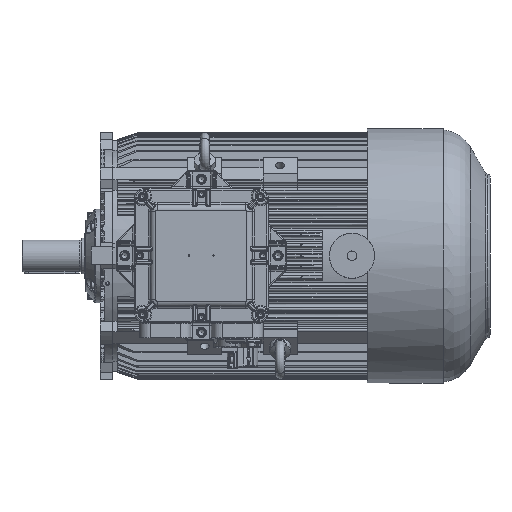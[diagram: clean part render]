
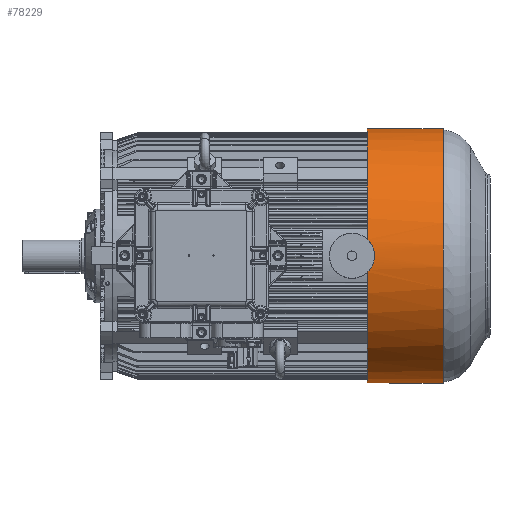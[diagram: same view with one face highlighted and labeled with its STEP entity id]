
A CAD part, top view. The second image highlights one B-rep face of the part: STEP entity #78229.
In plain terms, the highlighted cylindrical face has radius 299.5 mm (diameter 599 mm), a partial arc.
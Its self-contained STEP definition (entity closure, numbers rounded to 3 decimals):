
#1646=CYLINDRICAL_SURFACE('',#84217,299.5);
#5690=LINE('',#130180,#9474);
#5691=LINE('',#130181,#9475);
#9474=VECTOR('',#99751,1000.);
#9475=VECTOR('',#99752,1000.);
#10832=CIRCLE('',#78585,299.5);
#13457=CIRCLE('',#84208,299.5);
#13462=CIRCLE('',#84216,299.5);
#29023=ORIENTED_EDGE('',*,*,#37608,.T.);
#29024=ORIENTED_EDGE('',*,*,#37621,.T.);
#29025=ORIENTED_EDGE('',*,*,#29969,.F.);
#29026=ORIENTED_EDGE('',*,*,#30977,.T.);
#29027=ORIENTED_EDGE('',*,*,#37620,.F.);
#29028=ORIENTED_EDGE('',*,*,#37622,.T.);
#29969=EDGE_CURVE('',#38079,#38080,#10832,.T.);
#30977=EDGE_CURVE('',#38079,#38907,#43449,.T.);
#37608=EDGE_CURVE('',#42988,#42987,#13457,.T.);
#37620=EDGE_CURVE('',#42996,#38907,#13462,.T.);
#37621=EDGE_CURVE('',#42987,#38080,#5690,.T.);
#37622=EDGE_CURVE('',#42996,#42988,#5691,.F.);
#38079=VERTEX_POINT('',#101042);
#38080=VERTEX_POINT('',#101043);
#38907=VERTEX_POINT('',#103996);
#42987=VERTEX_POINT('',#130112);
#42988=VERTEX_POINT('',#130114);
#42996=VERTEX_POINT('',#130177);
#43449=B_SPLINE_CURVE_WITH_KNOTS('',3,(#103997,#103998,#103999,#104000,
#104001,#104002,#104003,#104004,#104005,#104006,#104007,#104008,#104009,
#104010,#104011,#104012),.UNSPECIFIED.,.F.,.F.,(4,1,1,1,1,1,1,1,1,1,1,1,
1,4),(0.,0.011,0.016,0.021,0.032,
0.037,0.043,0.048,0.054,
0.059,0.064,0.07,0.075,
0.086),.UNSPECIFIED.);
#47706=EDGE_LOOP('',(#29023,#29024,#29025,#29026,#29027,#29028));
#51430=FACE_BOUND('',#47706,.T.);
#78229=ADVANCED_FACE('',(#51430),#1646,.T.);
#78585=AXIS2_PLACEMENT_3D('',#101041,#84810,#84811);
#84208=AXIS2_PLACEMENT_3D('',#130113,#99729,#99730);
#84216=AXIS2_PLACEMENT_3D('',#130178,#99747,#99748);
#84217=AXIS2_PLACEMENT_3D('',#130179,#99749,#99750);
#84810=DIRECTION('',(-1.,0.,0.));
#84811=DIRECTION('',(0.,0.,1.));
#99729=DIRECTION('',(-1.,0.,0.));
#99730=DIRECTION('',(0.,0.,1.));
#99747=DIRECTION('',(-1.,0.,0.));
#99748=DIRECTION('',(0.,0.,1.));
#99749=DIRECTION('',(-1.,0.,0.));
#99750=DIRECTION('',(0.,0.,1.));
#99751=DIRECTION('',(-1.,0.,0.));
#99752=DIRECTION('',(-1.,0.,0.));
#101041=CARTESIAN_POINT('',(608.5,0.,0.));
#101042=CARTESIAN_POINT('',(608.5,38.429,297.024));
#101043=CARTESIAN_POINT('',(608.5,133.924,-267.889));
#103996=CARTESIAN_POINT('',(608.5,-38.429,297.024));
#103997=CARTESIAN_POINT('',(608.5,38.429,297.024));
#103998=CARTESIAN_POINT('',(611.116,35.944,297.346));
#103999=CARTESIAN_POINT('',(614.596,31.886,297.824));
#104000=CARTESIAN_POINT('',(618.387,25.827,298.397));
#104001=CARTESIAN_POINT('',(621.577,19.33,298.907));
#104002=CARTESIAN_POINT('',(623.712,12.553,299.274));
#104003=CARTESIAN_POINT('',(624.819,5.384,299.468));
#104004=CARTESIAN_POINT('',(625.09,0.013,299.516));
#104005=CARTESIAN_POINT('',(624.823,-5.331,299.469));
#104006=CARTESIAN_POINT('',(624.006,-10.686,299.325));
#104007=CARTESIAN_POINT('',(622.648,-15.917,299.091));
#104008=CARTESIAN_POINT('',(620.791,-20.926,298.782));
#104009=CARTESIAN_POINT('',(618.428,-25.754,298.403));
#104010=CARTESIAN_POINT('',(614.603,-31.884,297.824));
#104011=CARTESIAN_POINT('',(611.116,-35.944,297.346));
#104012=CARTESIAN_POINT('',(608.5,-38.429,297.024));
#130112=CARTESIAN_POINT('',(786.5,133.924,-267.889));
#130113=CARTESIAN_POINT('',(786.5,0.,0.));
#130114=CARTESIAN_POINT('',(786.5,-133.924,-267.889));
#130177=CARTESIAN_POINT('',(608.5,-133.924,-267.889));
#130178=CARTESIAN_POINT('',(608.5,0.,0.));
#130179=CARTESIAN_POINT('',(0.,0.,0.));
#130180=CARTESIAN_POINT('',(0.,133.924,-267.889));
#130181=CARTESIAN_POINT('',(0.,-133.924,-267.889));
